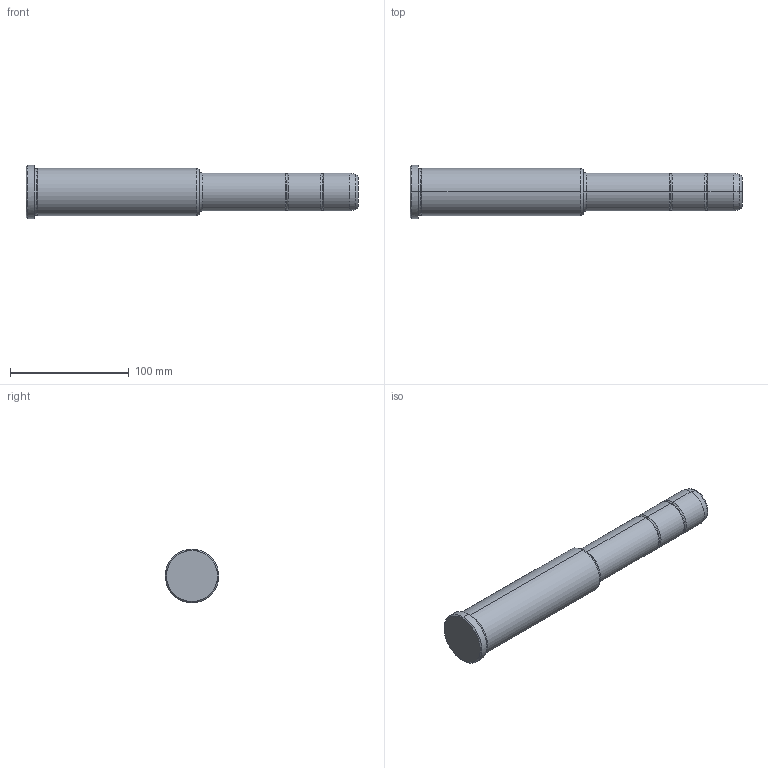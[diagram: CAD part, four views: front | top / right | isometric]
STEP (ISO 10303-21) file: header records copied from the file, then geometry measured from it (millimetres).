
FILE_DESCRIPTION(('CATIA V5 STEP Exchange'),'2;1');
FILE_NAME('C:\Users\Utente\Desktop\IO LAVORO\3D X SITO CF\X SITO\PLASTICA\351\351-32X146X280.stp','2021-09-15T12:12:57+00:00',('none'),('none'),'CATIA Version 5 Release 20 GA (IN-10)','CATIA V5 STEP AP203','none');
FILE_SCHEMA(('CONFIG_CONTROL_DESIGN'));
Length unit declared in the file: millimetre
Products named in the file (1): 351-32X146X280
Bounding box: 280 x 45 x 45 mm (x, y, z)
Volume: 292369.5 mm3; surface area: 34679.6 mm2
Topology: 1 solids, 1 shells, 36 faces, 102 edges, 70 vertices
Faces by surface type: torus 16, cylinder 10, cone 6, plane 4
Entity records: 1292 total; most frequent: CARTESIAN_POINT 321, ORIENTED_EDGE 204, DIRECTION 166, AXIS2_PLACEMENT_3D 115, EDGE_CURVE 102, CIRCLE 78, VERTEX_POINT 70, EDGE_LOOP 38
